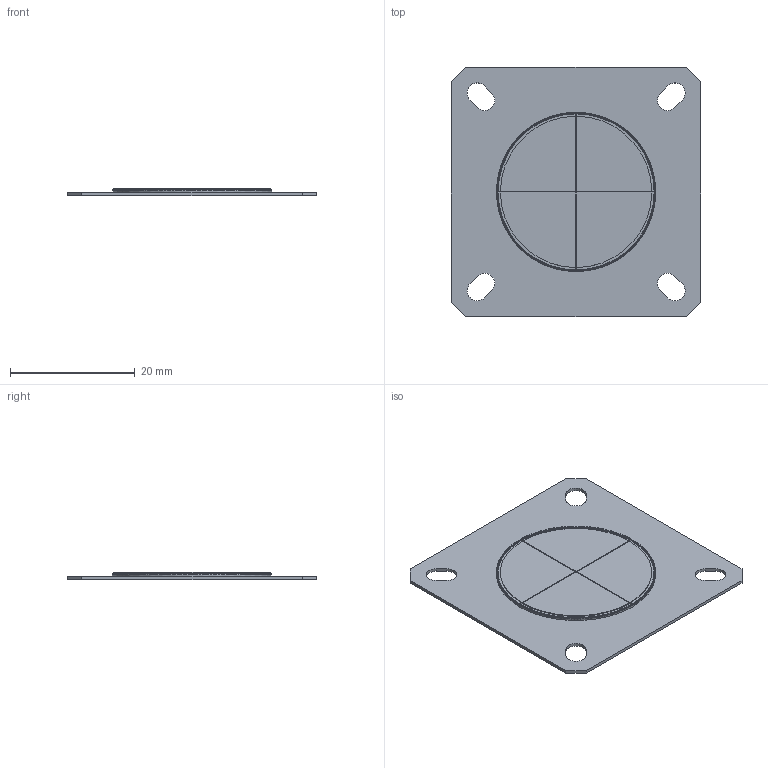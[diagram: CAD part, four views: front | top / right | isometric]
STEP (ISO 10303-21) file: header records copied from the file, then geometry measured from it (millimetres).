
FILE_DESCRIPTION((''),'2;1');
FILE_NAME('PROTO_INSERT_SIM_DUMMY-21','2020-10-15T11:19:45',('ccole'),(''),'CREO PARAMETRIC BY PTC INC, 2019292','CREO PARAMETRIC BY PTC INC, 2019292','');
FILE_SCHEMA(('CONFIG_CONTROL_DESIGN'));
Length unit declared in the file: inch
Products named in the file (1): PROTO_INSERT_SIM_DUMMY-21
Bounding box: 40.01 x 40.01 x 1.14 mm (x, y, z)
Volume: 1032.9 mm3; surface area: 3258.5 mm2
Topology: 1 solids, 1 shells, 1147 faces, 3423 edges, 2279 vertices
Faces by surface type: plane 581, cylinder 566
Entity records: 42253 total; most frequent: CARTESIAN_POINT 14560, ORIENTED_EDGE 6846, DIRECTION 4309, EDGE_CURVE 3423, VERTEX_POINT 2279, B_SPLINE_CURVE_WITH_KNOTS 1811, AXIS2_PLACEMENT_3D 1550, VECTOR 1209
